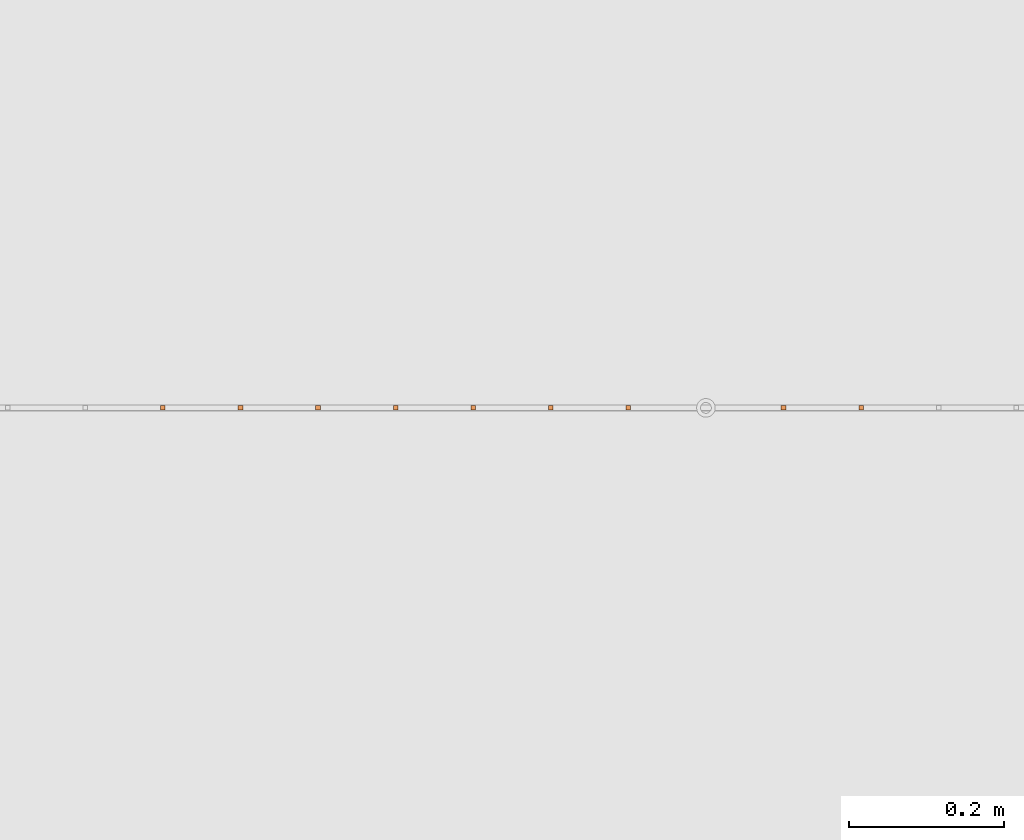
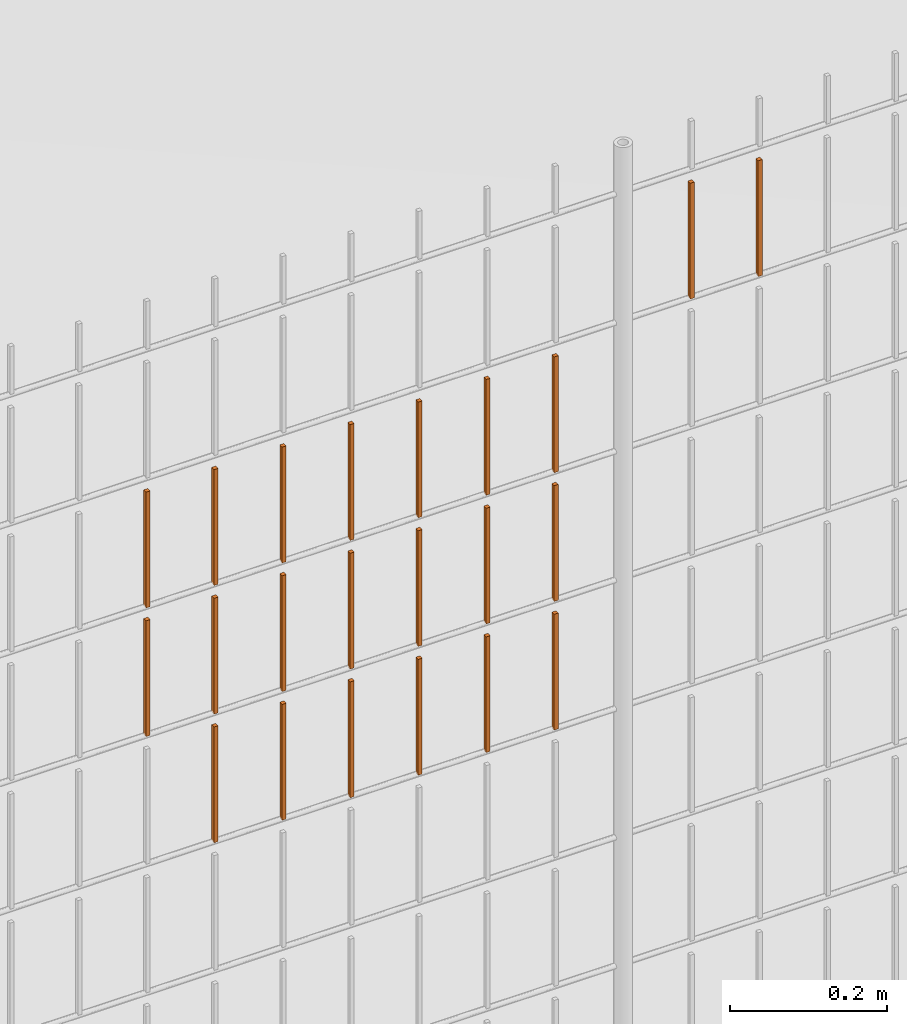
# One storey, part 246 of 1809: 22 proxies, 1 element without a shape of its own.
"""IFC2X3 building model written with IfcOpenShell, lengths in millimetres."""

from ifc_helpers import new_model, entity, si_unit, converted_unit, derived_unit, money_unit, direction, frame, origin_with_axes, place, context, subcontext, project, spatial, faceted_brep, source, transform, mapped, material, type_object, element, aggregate, save


model = new_model("IFC2X3")

# Units and contexts
model_context = context("Model", 3, precision=0.01, world=origin_with_axes(), true_north=direction((0.0, 1.0)))
body_context = subcontext(model_context, "Body", "Model", "MODEL_VIEW")
ifc_project = project(units=[si_unit("LENGTHUNIT", "METRE", prefix="MILLI"), si_unit("AREAUNIT", "SQUARE_METRE"), si_unit("VOLUMEUNIT", "CUBIC_METRE"), converted_unit("PLANEANGLEUNIT", "DEGREE", entity("IfcPlaneAngleMeasure", 0.0174532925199), si_unit("PLANEANGLEUNIT", "RADIAN"), dimensions=[0, 0, 0, 0, 0, 0, 0]), si_unit("SOLIDANGLEUNIT", "STERADIAN"), money_unit("EUR"), converted_unit("TIMEUNIT", "Year", entity("IfcTimeMeasure", 31556926.0), si_unit("TIMEUNIT", "SECOND"), dimensions=[0, 0, 1, 0, 0, 0, 0]), si_unit("MASSUNIT", "GRAM", prefix="KILO"), si_unit("THERMODYNAMICTEMPERATUREUNIT", "DEGREE_CELSIUS"), si_unit("LUMINOUSINTENSITYUNIT", "LUMEN"), si_unit("ENERGYUNIT", "JOULE", prefix="MEGA"), derived_unit("THERMALCONDUCTANCEUNIT", [(si_unit("POWERUNIT", "WATT"), 1), (si_unit("LENGTHUNIT", "METRE"), -1), (si_unit("THERMODYNAMICTEMPERATUREUNIT", "KELVIN"), -1)]), derived_unit("SPECIFICHEATCAPACITYUNIT", [(si_unit("ENERGYUNIT", "JOULE"), 1), (si_unit("MASSUNIT", "GRAM", prefix="KILO"), -1), (si_unit("THERMODYNAMICTEMPERATUREUNIT", "KELVIN"), -1)]), derived_unit("MASSDENSITYUNIT", [(si_unit("MASSUNIT", "GRAM", prefix="KILO"), 1), (si_unit("VOLUMEUNIT", "CUBIC_METRE"), -1)])], contexts=[model_context])

# Site, building, storey
site_placement = place(None, origin_with_axes())
site = spatial("IfcSite", under=ifc_project, at=site_placement, Name="Politse- ja Piirivalveameti ning Päästeameti ühishoone", CompositionType="ELEMENT")
building_placement = place(site_placement, origin_with_axes())
building = spatial("IfcBuilding", under=site, at=building_placement, Name="Politse- ja Piirivalveameti ning Päästeameti ühishoone", CompositionType="ELEMENT")
storey_placement = place(building_placement, origin_with_axes())
storey = spatial("IfcBuildingStorey", under=building, at=storey_placement, Name="Esimene korrus", CompositionType="ELEMENT", Elevation=0.0)

# Proxies
building_element_proxy_type_1 = type_object("IfcBuildingElementProxyType", Name="Railing Type", PredefinedType="NOTDEFINED")
proxy_1_placement = place(storey_placement, frame((-16775.8601056, 25156.7555964, 0.0), z_axis=(0.0, 0.0, 1.0), x_axis=(1.0, 0.0, 0.0)))
proxy_1 = element("IfcBuildingElementProxy", 1, at=proxy_1_placement, inside=storey, type_object=building_element_proxy_type_1, Name="KENNELI PIIRE")
ifc_material = material(Name="Teras - Konstruktsioon")
building_element_proxy_type_2 = type_object("IfcBuildingElementProxyType", Name="IfcBuildingElementProxy", PredefinedType="NOTDEFINED")
shared_shape_1 = source(origin_with_axes(), body_context, "Body", "Brep", [
    faceted_brep([(3.0, 3.0, 0.0), (-3.0, 3.0, 0.0), (-3.0, 3.0, 180.000012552), (3.0, 3.0, 180.000012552), (3.0, -3.0, 0.0), (-3.0, -3.0, 0.0), (-3.0, -3.0, 180.000012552), (3.0, -3.0, 180.000012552)], [[[0, 1, 2, 3]], [[0, 4, 5, 1]], [[1, 5, 6, 2]], [[3, 2, 6, 7]], [[4, 0, 3, 7]], [[5, 4, 7, 6]]]),
])
proxy_2_placement = place(proxy_1_placement, frame((-3082.26655065, -16068.8402798, 1803.99998745), z_axis=(0.0, 0.0, 1.0), x_axis=(1.0, 0.0, 0.0)))
proxy_2 = element("IfcBuildingElementProxy", 2, at=proxy_2_placement, type_object=building_element_proxy_type_2, material=ifc_material, Name="BALUSTER - 001", context=body_context, shape_type="MappedRepresentation", body=[
    mapped(shared_shape_1, transform((0.0, 0.0, 0.0), x_axis=(0.0, -1.0, 0.0), y_axis=(1.0, 0.0, 0.0), z_axis=(0.0, 0.0, 1.0))),
])
proxy_3_placement = place(proxy_1_placement, frame((-2982.26655065, -16068.8402798, 1803.99998745), z_axis=(0.0, 0.0, 1.0), x_axis=(1.0, 0.0, 0.0)))
proxy_3 = element("IfcBuildingElementProxy", 3, at=proxy_3_placement, type_object=building_element_proxy_type_2, material=ifc_material, Name="BALUSTER - 001", context=body_context, shape_type="MappedRepresentation", body=[
    mapped(shared_shape_1, transform((0.0, 0.0, 0.0), x_axis=(0.0, -1.0, 0.0), y_axis=(1.0, 0.0, 0.0), z_axis=(0.0, 0.0, 1.0))),
])
proxy_4_placement = place(proxy_1_placement, frame((-2882.26655065, -16068.8402798, 1803.99998745), z_axis=(0.0, 0.0, 1.0), x_axis=(1.0, 0.0, 0.0)))
proxy_4 = element("IfcBuildingElementProxy", 4, at=proxy_4_placement, type_object=building_element_proxy_type_2, material=ifc_material, Name="BALUSTER - 001", context=body_context, shape_type="MappedRepresentation", body=[
    mapped(shared_shape_1, transform((0.0, 0.0, 0.0), x_axis=(0.0, -1.0, 0.0), y_axis=(1.0, 0.0, 0.0), z_axis=(0.0, 0.0, 1.0))),
])
proxy_5_placement = place(proxy_1_placement, frame((-2782.26655065, -16068.8402798, 1803.99998745), z_axis=(0.0, 0.0, 1.0), x_axis=(1.0, 0.0, 0.0)))
proxy_5 = element("IfcBuildingElementProxy", 5, at=proxy_5_placement, type_object=building_element_proxy_type_2, material=ifc_material, Name="BALUSTER - 001", context=body_context, shape_type="MappedRepresentation", body=[
    mapped(shared_shape_1, transform((0.0, 0.0, 0.0), x_axis=(0.0, -1.0, 0.0), y_axis=(1.0, 0.0, 0.0), z_axis=(0.0, 0.0, 1.0))),
])
proxy_6_placement = place(proxy_1_placement, frame((-2682.26655065, -16068.8402798, 1803.99998745), z_axis=(0.0, 0.0, 1.0), x_axis=(1.0, 0.0, 0.0)))
proxy_6 = element("IfcBuildingElementProxy", 6, at=proxy_6_placement, type_object=building_element_proxy_type_2, material=ifc_material, Name="BALUSTER - 001", context=body_context, shape_type="MappedRepresentation", body=[
    mapped(shared_shape_1, transform((0.0, 0.0, 0.0), x_axis=(0.0, -1.0, 0.0), y_axis=(1.0, 0.0, 0.0), z_axis=(0.0, 0.0, 1.0))),
])
proxy_7_placement = place(proxy_1_placement, frame((-2582.26655065, -16068.8402798, 1803.99998745), z_axis=(0.0, 0.0, 1.0), x_axis=(1.0, 0.0, 0.0)))
proxy_7 = element("IfcBuildingElementProxy", 7, at=proxy_7_placement, type_object=building_element_proxy_type_2, material=ifc_material, Name="BALUSTER - 001", context=body_context, shape_type="MappedRepresentation", body=[
    mapped(shared_shape_1, transform((0.0, 0.0, 0.0), x_axis=(0.0, -1.0, 0.0), y_axis=(1.0, 0.0, 0.0), z_axis=(0.0, 0.0, 1.0))),
])
proxy_8_placement = place(proxy_1_placement, frame((-2482.26655065, -16068.8402798, 1803.99998745), z_axis=(0.0, 0.0, 1.0), x_axis=(1.0, 0.0, 0.0)))
proxy_8 = element("IfcBuildingElementProxy", 8, at=proxy_8_placement, type_object=building_element_proxy_type_2, material=ifc_material, Name="BALUSTER - 001", context=body_context, shape_type="MappedRepresentation", body=[
    mapped(shared_shape_1, transform((0.0, 0.0, 0.0), x_axis=(0.0, -1.0, 0.0), y_axis=(1.0, 0.0, 0.0), z_axis=(0.0, 0.0, 1.0))),
])
shared_shape_2 = source(origin_with_axes(), body_context, "Body", "Brep", [
    faceted_brep([(3.0, 3.0, 0.0), (-3.0, 3.0, 0.0), (-3.0, 3.0, 180.000012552), (3.0, 3.0, 180.000012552), (3.0, -3.0, 0.0), (-3.0, -3.0, 0.0), (-3.0, -3.0, 180.000012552), (3.0, -3.0, 180.000012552)], [[[0, 1, 2, 3]], [[0, 4, 5, 1]], [[1, 5, 6, 2]], [[3, 2, 6, 7]], [[4, 0, 3, 7]], [[5, 4, 7, 6]]]),
])
proxy_9_placement = place(proxy_1_placement, frame((-3082.26655065, -16068.8402798, 2003.99998745), z_axis=(0.0, 0.0, 1.0), x_axis=(1.0, 0.0, 0.0)))
proxy_9 = element("IfcBuildingElementProxy", 9, at=proxy_9_placement, type_object=building_element_proxy_type_2, material=ifc_material, Name="BALUSTER - 001", context=body_context, shape_type="MappedRepresentation", body=[
    mapped(shared_shape_2, transform((0.0, 0.0, 0.0), x_axis=(0.0, -1.0, 0.0), y_axis=(1.0, 0.0, 0.0), z_axis=(0.0, 0.0, 1.0))),
])
proxy_10_placement = place(proxy_1_placement, frame((-2982.26655065, -16068.8402798, 2003.99998745), z_axis=(0.0, 0.0, 1.0), x_axis=(1.0, 0.0, 0.0)))
proxy_10 = element("IfcBuildingElementProxy", 10, at=proxy_10_placement, type_object=building_element_proxy_type_2, material=ifc_material, Name="BALUSTER - 001", context=body_context, shape_type="MappedRepresentation", body=[
    mapped(shared_shape_2, transform((0.0, 0.0, 0.0), x_axis=(0.0, -1.0, 0.0), y_axis=(1.0, 0.0, 0.0), z_axis=(0.0, 0.0, 1.0))),
])
proxy_11_placement = place(proxy_1_placement, frame((-2882.26655065, -16068.8402798, 2003.99998745), z_axis=(0.0, 0.0, 1.0), x_axis=(1.0, 0.0, 0.0)))
proxy_11 = element("IfcBuildingElementProxy", 11, at=proxy_11_placement, type_object=building_element_proxy_type_2, material=ifc_material, Name="BALUSTER - 001", context=body_context, shape_type="MappedRepresentation", body=[
    mapped(shared_shape_2, transform((0.0, 0.0, 0.0), x_axis=(0.0, -1.0, 0.0), y_axis=(1.0, 0.0, 0.0), z_axis=(0.0, 0.0, 1.0))),
])
proxy_12_placement = place(proxy_1_placement, frame((-2782.26655065, -16068.8402798, 2003.99998745), z_axis=(0.0, 0.0, 1.0), x_axis=(1.0, 0.0, 0.0)))
proxy_12 = element("IfcBuildingElementProxy", 12, at=proxy_12_placement, type_object=building_element_proxy_type_2, material=ifc_material, Name="BALUSTER - 001", context=body_context, shape_type="MappedRepresentation", body=[
    mapped(shared_shape_2, transform((0.0, 0.0, 0.0), x_axis=(0.0, -1.0, 0.0), y_axis=(1.0, 0.0, 0.0), z_axis=(0.0, 0.0, 1.0))),
])
proxy_13_placement = place(proxy_1_placement, frame((-2682.26655065, -16068.8402798, 2003.99998745), z_axis=(0.0, 0.0, 1.0), x_axis=(1.0, 0.0, 0.0)))
proxy_13 = element("IfcBuildingElementProxy", 13, at=proxy_13_placement, type_object=building_element_proxy_type_2, material=ifc_material, Name="BALUSTER - 001", context=body_context, shape_type="MappedRepresentation", body=[
    mapped(shared_shape_2, transform((0.0, 0.0, 0.0), x_axis=(0.0, -1.0, 0.0), y_axis=(1.0, 0.0, 0.0), z_axis=(0.0, 0.0, 1.0))),
])
proxy_14_placement = place(proxy_1_placement, frame((-2582.26655065, -16068.8402798, 2003.99998745), z_axis=(0.0, 0.0, 1.0), x_axis=(1.0, 0.0, 0.0)))
proxy_14 = element("IfcBuildingElementProxy", 14, at=proxy_14_placement, type_object=building_element_proxy_type_2, material=ifc_material, Name="BALUSTER - 001", context=body_context, shape_type="MappedRepresentation", body=[
    mapped(shared_shape_2, transform((0.0, 0.0, 0.0), x_axis=(0.0, -1.0, 0.0), y_axis=(1.0, 0.0, 0.0), z_axis=(0.0, 0.0, 1.0))),
])
proxy_15_placement = place(proxy_1_placement, frame((-2482.26655065, -16068.8402798, 2003.99998745), z_axis=(0.0, 0.0, 1.0), x_axis=(1.0, 0.0, 0.0)))
proxy_15 = element("IfcBuildingElementProxy", 15, at=proxy_15_placement, type_object=building_element_proxy_type_2, material=ifc_material, Name="BALUSTER - 001", context=body_context, shape_type="MappedRepresentation", body=[
    mapped(shared_shape_2, transform((0.0, 0.0, 0.0), x_axis=(0.0, -1.0, 0.0), y_axis=(1.0, 0.0, 0.0), z_axis=(0.0, 0.0, 1.0))),
])
shared_shape_3 = source(origin_with_axes(), body_context, "Body", "Brep", [
    faceted_brep([(3.0, 3.0, 0.0), (-3.0, 3.0, 0.0), (-3.0, 3.0, 180.000012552), (3.0, 3.0, 180.000012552), (3.0, -3.0, 0.0), (-3.0, -3.0, 0.0), (-3.0, -3.0, 180.000012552), (3.0, -3.0, 180.000012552)], [[[0, 1, 2, 3]], [[0, 4, 5, 1]], [[1, 5, 6, 2]], [[3, 2, 6, 7]], [[4, 0, 3, 7]], [[5, 4, 7, 6]]]),
])
proxy_16_placement = place(proxy_1_placement, frame((-2282.26655065, -16068.8402798, 2203.99998745), z_axis=(0.0, 0.0, 1.0), x_axis=(1.0, 0.0, 0.0)))
proxy_16 = element("IfcBuildingElementProxy", 16, at=proxy_16_placement, type_object=building_element_proxy_type_2, material=ifc_material, Name="BALUSTER - 001", context=body_context, shape_type="MappedRepresentation", body=[
    mapped(shared_shape_3, transform((0.0, 0.0, 0.0), x_axis=(0.0, -1.0, 0.0), y_axis=(1.0, 0.0, 0.0), z_axis=(0.0, 0.0, 1.0))),
])
proxy_17_placement = place(proxy_1_placement, frame((-2182.26655065, -16068.8402798, 2203.99998745), z_axis=(0.0, 0.0, 1.0), x_axis=(1.0, 0.0, 0.0)))
proxy_17 = element("IfcBuildingElementProxy", 17, at=proxy_17_placement, type_object=building_element_proxy_type_2, material=ifc_material, Name="BALUSTER - 001", context=body_context, shape_type="MappedRepresentation", body=[
    mapped(shared_shape_3, transform((0.0, 0.0, 0.0), x_axis=(0.0, -1.0, 0.0), y_axis=(1.0, 0.0, 0.0), z_axis=(0.0, 0.0, 1.0))),
])
shared_shape_4 = source(origin_with_axes(), body_context, "Body", "Brep", [
    faceted_brep([(3.0, 3.0, 0.0), (-3.0, 3.0, 0.0), (-3.0, 3.0, 180.000012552), (3.0, 3.0, 180.000012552), (3.0, -3.0, 0.0), (-3.0, -3.0, 0.0), (-3.0, -3.0, 180.000012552), (3.0, -3.0, 180.000012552)], [[[0, 1, 2, 3]], [[0, 4, 5, 1]], [[1, 5, 6, 2]], [[3, 2, 6, 7]], [[4, 0, 3, 7]], [[5, 4, 7, 6]]]),
])
proxy_18_placement = place(proxy_1_placement, frame((-2982.26655065, -16068.8402798, 1603.99998745), z_axis=(0.0, 0.0, 1.0), x_axis=(1.0, 0.0, 0.0)))
proxy_18 = element("IfcBuildingElementProxy", 18, at=proxy_18_placement, type_object=building_element_proxy_type_2, material=ifc_material, Name="BALUSTER - 001", context=body_context, shape_type="MappedRepresentation", body=[
    mapped(shared_shape_4, transform((0.0, 0.0, 0.0), x_axis=(0.0, -1.0, 0.0), y_axis=(1.0, 0.0, 0.0), z_axis=(0.0, 0.0, 1.0))),
])
proxy_19_placement = place(proxy_1_placement, frame((-2882.26655065, -16068.8402798, 1603.99998745), z_axis=(0.0, 0.0, 1.0), x_axis=(1.0, 0.0, 0.0)))
proxy_19 = element("IfcBuildingElementProxy", 19, at=proxy_19_placement, type_object=building_element_proxy_type_2, material=ifc_material, Name="BALUSTER - 001", context=body_context, shape_type="MappedRepresentation", body=[
    mapped(shared_shape_4, transform((0.0, 0.0, 0.0), x_axis=(0.0, -1.0, 0.0), y_axis=(1.0, 0.0, 0.0), z_axis=(0.0, 0.0, 1.0))),
])
proxy_20_placement = place(proxy_1_placement, frame((-2782.26655065, -16068.8402798, 1603.99998745), z_axis=(0.0, 0.0, 1.0), x_axis=(1.0, 0.0, 0.0)))
proxy_20 = element("IfcBuildingElementProxy", 20, at=proxy_20_placement, type_object=building_element_proxy_type_2, material=ifc_material, Name="BALUSTER - 001", context=body_context, shape_type="MappedRepresentation", body=[
    mapped(shared_shape_4, transform((0.0, 0.0, 0.0), x_axis=(0.0, -1.0, 0.0), y_axis=(1.0, 0.0, 0.0), z_axis=(0.0, 0.0, 1.0))),
])
proxy_21_placement = place(proxy_1_placement, frame((-2682.26655065, -16068.8402798, 1603.99998745), z_axis=(0.0, 0.0, 1.0), x_axis=(1.0, 0.0, 0.0)))
proxy_21 = element("IfcBuildingElementProxy", 21, at=proxy_21_placement, type_object=building_element_proxy_type_2, material=ifc_material, Name="BALUSTER - 001", context=body_context, shape_type="MappedRepresentation", body=[
    mapped(shared_shape_4, transform((0.0, 0.0, 0.0), x_axis=(0.0, -1.0, 0.0), y_axis=(1.0, 0.0, 0.0), z_axis=(0.0, 0.0, 1.0))),
])
proxy_22_placement = place(proxy_1_placement, frame((-2582.26655065, -16068.8402798, 1603.99998745), z_axis=(0.0, 0.0, 1.0), x_axis=(1.0, 0.0, 0.0)))
proxy_22 = element("IfcBuildingElementProxy", 22, at=proxy_22_placement, type_object=building_element_proxy_type_2, material=ifc_material, Name="BALUSTER - 001", context=body_context, shape_type="MappedRepresentation", body=[
    mapped(shared_shape_4, transform((0.0, 0.0, 0.0), x_axis=(0.0, -1.0, 0.0), y_axis=(1.0, 0.0, 0.0), z_axis=(0.0, 0.0, 1.0))),
])
proxy_23_placement = place(proxy_1_placement, frame((-2482.26655065, -16068.8402798, 1603.99998745), z_axis=(0.0, 0.0, 1.0), x_axis=(1.0, 0.0, 0.0)))
proxy_23 = element("IfcBuildingElementProxy", 23, at=proxy_23_placement, type_object=building_element_proxy_type_2, material=ifc_material, Name="BALUSTER - 001", context=body_context, shape_type="MappedRepresentation", body=[
    mapped(shared_shape_4, transform((0.0, 0.0, 0.0), x_axis=(0.0, -1.0, 0.0), y_axis=(1.0, 0.0, 0.0), z_axis=(0.0, 0.0, 1.0))),
])
aggregate(proxy_1, [proxy_18, proxy_19, proxy_20, proxy_21, proxy_22, proxy_23, proxy_2, proxy_3, proxy_4, proxy_5, proxy_6, proxy_7, proxy_8, proxy_9, proxy_10, proxy_11, proxy_12, proxy_13, proxy_14, proxy_15, proxy_16, proxy_17])

save(model, "model.ifc")
